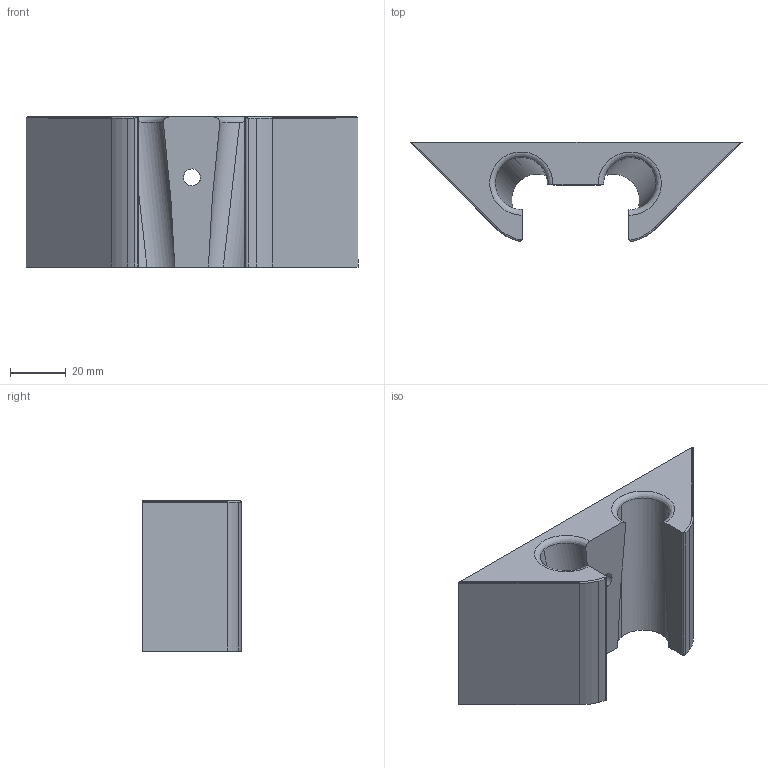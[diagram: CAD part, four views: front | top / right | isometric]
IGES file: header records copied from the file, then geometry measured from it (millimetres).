
Start section: 3D InterOp IGES (Version 24 0 1), Spatial Corp. Copyright (c) 1999-2007.
Global section: file name: etau version b (x2).igs; native system: Spatial Corp.; preprocessor: 3D InterOp ACIS/IGES; author: Noname; organization: Noname; date: 20160210.170819; units: millimetre
Bounding box: 119.45 x 35.57 x 53.98 mm (x, y, z)
Volume: 99355.7 mm3; surface area: 23683.1 mm2
Topology: 1 solids, 1 shells, 50 faces, 125 edges, 83 vertices
Faces by surface type: cylinder 31, plane 14, torus 3, bspline 2
